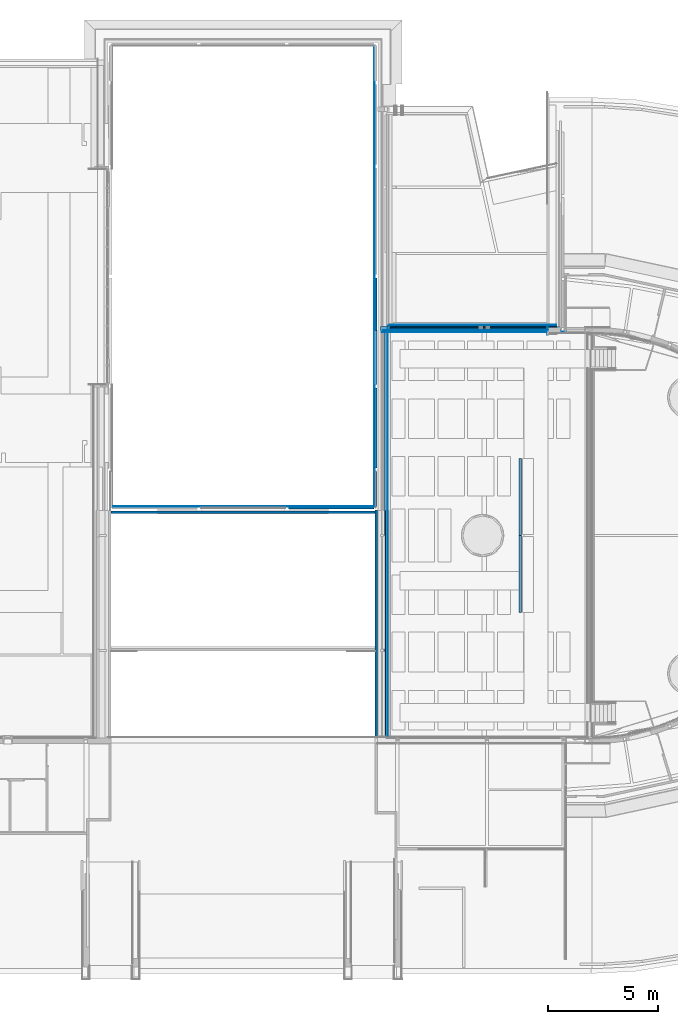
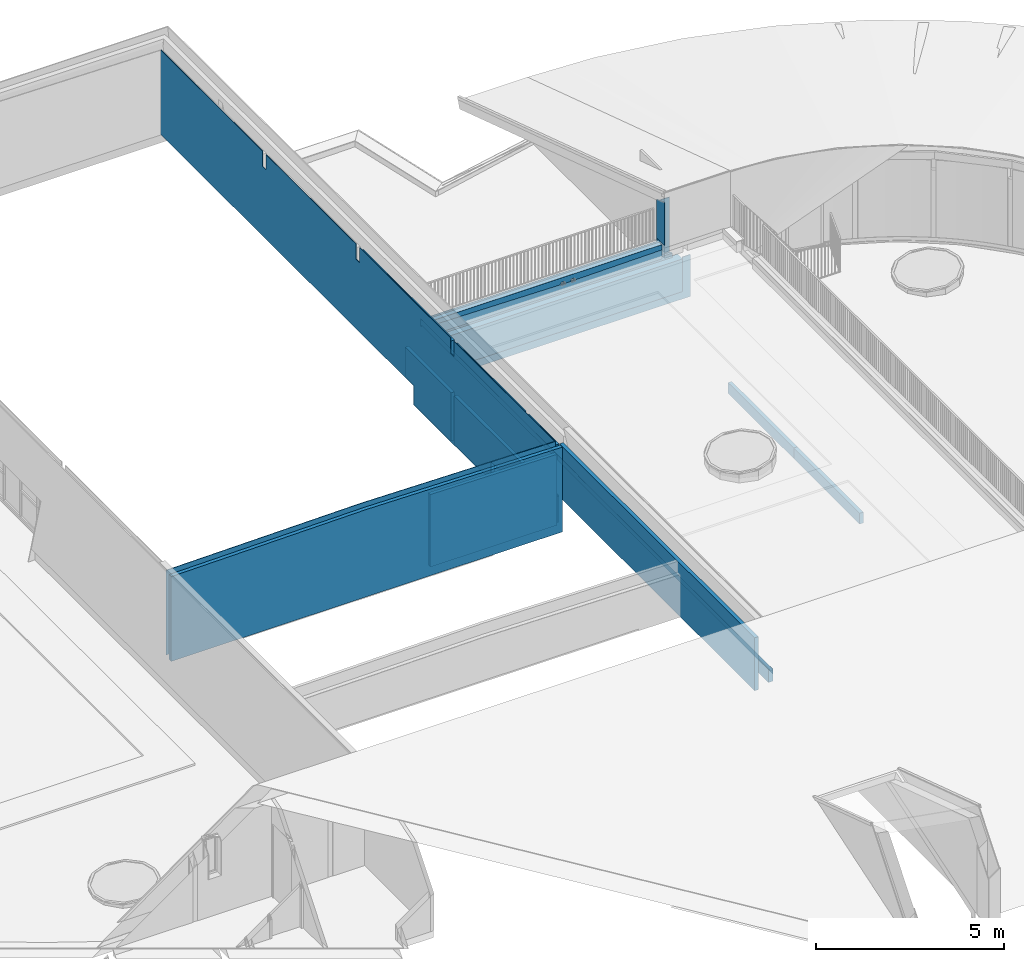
# One storey, part 30 of 66: 22 walls, 16 openings.
"""IFC2X3 building model written with IfcOpenShell, lengths in millimetres."""

from ifc_helpers import new_model, entity, si_unit, converted_unit, derived_unit, direction, frame, frame_2d, origin, origin_2d_with_axis, place, context, subcontext, project, spatial, polyline, rectangle, extrude, clip, halfspace, bounded_halfspace, material, layer, layer_set, layer_usage, type_object, element, save


model = new_model("IFC2X3")

# Units and contexts
model_context = context("Model", 3, precision=0.01, world=origin(), true_north=direction((6.12303176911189e-17, 1.0)))
body_context = subcontext(model_context, "Body", "Model", "MODEL_VIEW")
ifc_project = project(units=[si_unit("LENGTHUNIT", "METRE", prefix="MILLI"), si_unit("AREAUNIT", "SQUARE_METRE"), si_unit("VOLUMEUNIT", "CUBIC_METRE"), converted_unit("PLANEANGLEUNIT", "DEGREE", entity("IfcRatioMeasure", 0.0174532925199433), si_unit("PLANEANGLEUNIT", "RADIAN"), dimensions=[0, 0, 0, 0, 0, 0, 0]), si_unit("MASSUNIT", "GRAM", prefix="KILO"), derived_unit("MASSDENSITYUNIT", [(si_unit("MASSUNIT", "GRAM", prefix="KILO"), 1), (si_unit("LENGTHUNIT", "METRE"), -3)]), derived_unit("MOMENTOFINERTIAUNIT", [(si_unit("LENGTHUNIT", "METRE"), 4)]), si_unit("TIMEUNIT", "SECOND"), si_unit("FREQUENCYUNIT", "HERTZ"), si_unit("THERMODYNAMICTEMPERATUREUNIT", "DEGREE_CELSIUS"), derived_unit("THERMALTRANSMITTANCEUNIT", [(si_unit("MASSUNIT", "GRAM", prefix="KILO"), 1), (si_unit("THERMODYNAMICTEMPERATUREUNIT", "KELVIN"), -1), (si_unit("TIMEUNIT", "SECOND"), -3)]), derived_unit("VOLUMETRICFLOWRATEUNIT", [(si_unit("LENGTHUNIT", "METRE"), 3), (si_unit("TIMEUNIT", "SECOND"), -1)]), si_unit("ELECTRICCURRENTUNIT", "AMPERE"), si_unit("ELECTRICVOLTAGEUNIT", "VOLT"), si_unit("POWERUNIT", "WATT"), si_unit("FORCEUNIT", "NEWTON", prefix="KILO"), si_unit("ILLUMINANCEUNIT", "LUX"), si_unit("LUMINOUSFLUXUNIT", "LUMEN"), si_unit("LUMINOUSINTENSITYUNIT", "CANDELA"), derived_unit("USERDEFINED", [(si_unit("MASSUNIT", "GRAM", prefix="KILO"), -1), (si_unit("LENGTHUNIT", "METRE"), -2), (si_unit("TIMEUNIT", "SECOND"), 3), (si_unit("LUMINOUSFLUXUNIT", "LUMEN"), 1)]), derived_unit("LINEARVELOCITYUNIT", [(si_unit("LENGTHUNIT", "METRE"), 1), (si_unit("TIMEUNIT", "SECOND"), -1)]), si_unit("PRESSUREUNIT", "PASCAL"), derived_unit("USERDEFINED", [(si_unit("LENGTHUNIT", "METRE"), -2), (si_unit("MASSUNIT", "GRAM", prefix="KILO"), 1), (si_unit("TIMEUNIT", "SECOND"), -2)]), derived_unit("LINEARFORCEUNIT", [(si_unit("MASSUNIT", "GRAM", prefix="KILO"), 1), (si_unit("LENGTHUNIT", "METRE"), 1), (si_unit("TIMEUNIT", "SECOND"), -2), (si_unit("LENGTHUNIT", "METRE"), -1)]), derived_unit("PLANARFORCEUNIT", [(si_unit("MASSUNIT", "GRAM", prefix="KILO"), 1), (si_unit("LENGTHUNIT", "METRE"), 1), (si_unit("TIMEUNIT", "SECOND"), -2), (si_unit("LENGTHUNIT", "METRE"), -2)])], contexts=[model_context])

# Site, building, storey
site_placement = place(None, origin())
site = spatial("IfcSite", under=ifc_project, at=site_placement, Name="Default", CompositionType="ELEMENT")
building_placement = place(site_placement, origin())
building = spatial("IfcBuilding", under=site, at=building_placement, Name="-", CompositionType="ELEMENT")
storey_placement = place(building_placement, frame((0.0, 0.0, 3070.0)))
storey = spatial("IfcBuildingStorey", under=building, at=storey_placement, Name="01 eerste verdieping", CompositionType="ELEMENT", Elevation=3070.00000000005)

# Walls
ifc_material_1 = material(Name="NLRS_i4_hout_multiplex")
ifc_layer_1 = layer(ifc_material_1, 9.0)
ifc_material_2 = material(Name="NLRS_m1_isolatie")
ifc_layer_2 = layer(ifc_material_2, 89.0)
ifc_layer_3 = layer(ifc_material_1, 9.0)
ifc_layer_set_1 = layer_set([ifc_layer_1, ifc_layer_2, ifc_layer_3], Name="Basic Wall:NLRS_21_WA_HSB-wand_110mm")
ifc_layer_usage_1 = layer_usage(ifc_layer_set_1, "AXIS2", "POSITIVE", -53.5)
wall_type_1 = type_object("IfcWallType", Name="Basic Wall:NLRS_21_WA_HSB-wand_110mm", PredefinedType="STANDARD", material=ifc_layer_set_1)
wall_1_placement = place(storey_placement, frame((40821.2709756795, 22520.8202504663, 1200.0), z_axis=(0.0, 0.0, 1.0), x_axis=(0.0, -1.0, 0.0)))
element("IfcWallStandardCase", 1, at=wall_1_placement, inside=storey, type_object=wall_type_1, material=ifc_layer_usage_1, Name="Basic Wall:NLRS_21_WA_HSB-wand_110mm", ObjectType="Basic Wall:NLRS_21_WA_HSB-wand_110mm", context=body_context, shape_type="SweptSolid", body=[
    extrude(rectangle(XDim=1596.39665983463, YDim=106.999999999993, at=frame_2d((798.198329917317, 2.01794136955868e-12), x_axis=(-1.0, 0.0))), origin(), (0.0, 0.0, 1.0), 1682.52593752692),
])
ifc_layer_usage_2 = layer_usage(ifc_layer_set_1, "AXIS2", "POSITIVE", -53.5)
wall_2_placement = place(storey_placement, frame((40821.2709756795, 26326.8202504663, 1200.0), z_axis=(0.0, 0.0, 1.0), x_axis=(0.0, -1.0, 0.0)))
element("IfcWallStandardCase", 2, at=wall_2_placement, inside=storey, type_object=wall_type_1, material=ifc_layer_usage_2, Name="Basic Wall:NLRS_21_WA_HSB-wand_110mm", ObjectType="Basic Wall:NLRS_21_WA_HSB-wand_110mm", context=body_context, shape_type="SweptSolid", body=[
    extrude(rectangle(XDim=3646.0, YDim=106.999999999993, at=frame_2d((1823.0, 0.0), x_axis=(-1.0, 0.0))), origin(), (0.0, 0.0, 1.0), 1682.52593752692),
])

# Wall, opening
ifc_layer_usage_3 = layer_usage(ifc_layer_set_1, "AXIS2", "POSITIVE", -53.5)
wall_3_placement = place(storey_placement, frame((40822.0193132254, 31334.8202504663, 245.0), z_axis=(0.0, 0.0, 1.0), x_axis=(0.0, -1.0, 0.0)))
wall_3 = element("IfcWallStandardCase", 3, at=wall_3_placement, inside=storey, type_object=wall_type_1, material=ifc_layer_usage_3, Name="Basic Wall:NLRS_21_WA_HSB-wand_110mm", ObjectType="Basic Wall:NLRS_21_WA_HSB-wand_110mm", context=body_context, shape_type="SweptSolid", body=[
    extrude(rectangle(XDim=4848.00000000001, YDim=106.999999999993, at=frame_2d((2424.0, 0.0), x_axis=(-1.0, 0.0))), origin(), (0.0, 0.0, 1.0), 2637.52593752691),
])
opening_1_placement = place(wall_3_placement, origin())
element("IfcOpeningElement", 4, at=opening_1_placement, cuts=wall_3, Name="Basic Wall:NLRS_21_WA_HSB-wand_110mm", ObjectType="Opening", context=body_context, shape_type="SweptSolid", body=[
    extrude(rectangle(XDim=955.000000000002, YDim=2450.73616745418, at=frame_2d((2.1600499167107e-12, 2.8421709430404e-13), x_axis=(0.0, 1.0))), frame((3622.63191627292, 53.4999999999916, 477.500000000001), z_axis=(0.0, -1.0, 0.0), x_axis=(1.0, 0.0, 0.0)), (0.0, 0.0, 1.0), 107.0),
])

# Wall
ifc_layer_usage_4 = layer_usage(ifc_layer_set_1, "AXIS2", "POSITIVE", -53.5)
wall_4_placement = place(storey_placement, frame((40741.0, 20876.8202504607, 345.0), z_axis=(0.0, 0.0, 1.0), x_axis=(-1.0, 0.0, 0.0)))
element("IfcWallStandardCase", 5, at=wall_4_placement, inside=storey, type_object=wall_type_1, material=ifc_layer_usage_4, Name="Basic Wall:NLRS_21_WA_HSB-wand_110mm", ObjectType="Basic Wall:NLRS_21_WA_HSB-wand_110mm", context=body_context, shape_type="Clipping", body=[
    clip(extrude(rectangle(XDim=3884.0, YDim=107.000000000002, at=frame_2d((1942.0, -3.5527136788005e-15), x_axis=(-1.0, 0.0))), origin(), (0.0, 0.0, 1.0), 2355.19793529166), halfspace(frame((0.0, -53.5000000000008, 2299.19000326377), z_axis=(-0.0144186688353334, 0.0, 0.999896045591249), x_axis=(0.0, 1.0, 0.0)), False)),
])

# Wall, opening
ifc_layer_usage_5 = layer_usage(ifc_layer_set_1, "AXIS2", "POSITIVE", -53.5)
wall_5_placement = place(storey_placement, frame((40822.0193132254, 28937.5564179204, -370.0), z_axis=(0.0, 0.0, 1.0), x_axis=(0.0, -1.0, 0.0)))
wall_5 = element("IfcWallStandardCase", 6, at=wall_5_placement, inside=storey, type_object=wall_type_1, material=ifc_layer_usage_5, Name="Basic Wall:NLRS_21_WA_HSB-wand_110mm", ObjectType="Basic Wall:NLRS_21_WA_HSB-wand_110mm", context=body_context, shape_type="SweptSolid", body=[
    extrude(rectangle(XDim=2450.73616745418, YDim=106.999999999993, at=frame_2d((1225.36808372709, 0.0), x_axis=(-1.0, 0.0))), origin(), (0.0, 0.0, 1.0), 1570.00000000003),
])
opening_2_placement = place(wall_5_placement, origin())
element("IfcOpeningElement", 7, at=opening_2_placement, cuts=wall_5, Name="Basic Wall:NLRS_21_WA_HSB-wand_110mm", ObjectType="Opening", context=body_context, shape_type="SweptSolid", body=[
    extrude(rectangle(XDim=615.000000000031, YDim=476.736167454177, at=frame_2d((0.0, -2.1600499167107e-12), x_axis=(1.0, 0.0))), frame((238.368083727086, 53.5000000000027, 307.500000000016), z_axis=(0.0, -1.0, 0.0), x_axis=(0.0, 0.0, 1.0)), (0.0, 0.0, 1.0), 107.0),
])

ifc_layer_usage_6 = layer_usage(ifc_layer_set_1, "AXIS2", "POSITIVE", -53.5)
wall_6_placement = place(storey_placement, frame((40821.2709756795, 26326.8202504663, -370.0), z_axis=(0.0, 0.0, 1.0), x_axis=(0.0, -1.0, 0.0)))
wall_6 = element("IfcWallStandardCase", 8, at=wall_6_placement, inside=storey, type_object=wall_type_1, material=ifc_layer_usage_6, Name="Basic Wall:NLRS_21_WA_HSB-wand_110mm", ObjectType="Basic Wall:NLRS_21_WA_HSB-wand_110mm", context=body_context, shape_type="SweptSolid", body=[
    extrude(rectangle(XDim=3646.0, YDim=106.999999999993, at=frame_2d((1823.0, 2.22399876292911e-12), x_axis=(-1.0, 0.0))), origin(), (0.0, 0.0, 1.0), 1570.00000000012),
])
opening_3_placement = place(wall_6_placement, origin())
element("IfcOpeningElement", 9, at=opening_3_placement, cuts=wall_6, Name="Basic Wall:NLRS_21_WA_HSB-wand_110mm", ObjectType="Opening", context=body_context, shape_type="SweptSolid", body=[
    extrude(rectangle(XDim=615.000000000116, YDim=1671.99999999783, at=frame_2d((2.1600499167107e-12, 2.8421709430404e-13), x_axis=(0.0, 1.0))), frame((2810.0, 53.5000000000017, 307.500000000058), z_axis=(0.0, -1.0, 0.0), x_axis=(1.0, 0.0, 0.0)), (0.0, 0.0, 1.0), 107.0),
])

# Walls
ifc_layer_usage_7 = layer_usage(ifc_layer_set_1, "AXIS2", "POSITIVE", -53.5)
wall_7_placement = place(storey_placement, frame((40821.2709756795, 22520.8202504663, 345.0), z_axis=(0.0, 0.0, 1.0), x_axis=(0.0, -1.0, 0.0)))
element("IfcWallStandardCase", 10, at=wall_7_placement, inside=storey, type_object=wall_type_1, material=ifc_layer_usage_7, Name="Basic Wall:NLRS_21_WA_HSB-wand_110mm", ObjectType="Basic Wall:NLRS_21_WA_HSB-wand_110mm", context=body_context, shape_type="SweptSolid", body=[
    extrude(rectangle(XDim=1596.39665983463, YDim=106.999999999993, at=frame_2d((798.198329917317, 1.51345602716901e-12), x_axis=(-1.0, 0.0))), origin(), (0.0, 0.0, 1.0), 854.999999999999),
])
ifc_material_3 = material(Name="NLRS_f7_gipsplaat_gen")
ifc_layer_4 = layer(ifc_material_3, 12.5)
ifc_layer_5 = layer(ifc_material_2, 89.0)
ifc_layer_6 = layer(ifc_material_3, 12.5)
ifc_layer_set_2 = layer_set([ifc_layer_4, ifc_layer_5, ifc_layer_6], Name="Basic Wall:NLRS_21_WA_HSB-wand_114mm")
ifc_layer_usage_8 = layer_usage(ifc_layer_set_2, "AXIS2", "NEGATIVE", 57.0)
wall_type_2 = type_object("IfcWallType", Name="Basic Wall:NLRS_21_WA_HSB-wand_114mm", PredefinedType="STANDARD", material=ifc_layer_set_2)
wall_8_placement = place(storey_placement, frame((40850.0668104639, 20773.3202504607, 1282.0), z_axis=(0.0, 0.0, 1.0), x_axis=(0.0, -1.0, 0.0)))
element("IfcWallStandardCase", 11, at=wall_8_placement, inside=storey, type_object=wall_type_2, material=ifc_layer_usage_8, Name="Basic Wall:NLRS_21_WA_HSB-wand_114mm", ObjectType="Basic Wall:NLRS_21_WA_HSB-wand_114mm", context=body_context, shape_type="SweptSolid", body=[
    extrude(rectangle(XDim=10385.1990281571, YDim=113.999999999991, at=frame_2d((5192.59951407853, 2.02859951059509e-12), x_axis=(-1.0, 0.0))), origin(), (0.0, 0.0, 1.0), 1722.16925207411),
])
ifc_layer_usage_9 = layer_usage(ifc_layer_set_2, "AXIS2", "NEGATIVE", 57.0)
wall_9_placement = place(storey_placement, frame((40793.0668104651, 20663.3202504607, 245.0), z_axis=(0.0, 0.0, 1.0), x_axis=(-1.0, 0.0, 0.0)))
element("IfcWallStandardCase", 12, at=wall_9_placement, inside=storey, type_object=wall_type_2, material=ifc_layer_usage_9, Name="Basic Wall:NLRS_21_WA_HSB-wand_114mm", ObjectType="Basic Wall:NLRS_21_WA_HSB-wand_114mm", context=body_context, shape_type="Clipping", body=[
    clip(clip(extrude(rectangle(XDim=12012.371976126, YDim=114.0, at=frame_2d((6006.18598806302, 9.69890834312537e-13), x_axis=(-1.0, 0.0))), origin(), (0.0, 0.0, 1.0), 2834.99922800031), halfspace(frame((6001.07091661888, -57.0, 2834.99922800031), z_axis=(0.0138697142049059, 0.0, 0.999903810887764), x_axis=(0.0, 1.0, 0.0)), False)), halfspace(frame((0.0, -57.0, 2751.5992280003), z_axis=(-0.013896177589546, 0.0, 0.999903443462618), x_axis=(0.0, 1.0, 0.0)), False)),
])
ifc_layer_usage_10 = layer_usage(ifc_layer_set_2, "AXIS2", "NEGATIVE", 57.0)
wall_10_placement = place(storey_placement, frame((47380.620390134, 19616.0597289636, 930.0), z_axis=(0.0, 0.0, 1.0), x_axis=(0.0, 1.0, 0.0)))
element("IfcWallStandardCase", 13, at=wall_10_placement, inside=storey, type_object=wall_type_2, material=ifc_layer_usage_10, Name="Basic Wall:NLRS_21_WA_HSB-wand_114mm", ObjectType="Basic Wall:NLRS_21_WA_HSB-wand_114mm", context=body_context, shape_type="SweptSolid", body=[
    extrude(rectangle(XDim=3499.99999999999, YDim=113.999999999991, at=frame_2d((1750.0, 0.0), x_axis=(-1.0, 0.0))), origin(), (0.0, 0.0, 1.0), 351.999999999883),
])
ifc_layer_usage_11 = layer_usage(ifc_layer_set_2, "AXIS2", "NEGATIVE", 57.0)
wall_11_placement = place(storey_placement, frame((47380.620390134, 16116.0597289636, 930.0), z_axis=(0.0, 0.0, 1.0), x_axis=(0.0, 1.0, 0.0)))
element("IfcWallStandardCase", 14, at=wall_11_placement, inside=storey, type_object=wall_type_2, material=ifc_layer_usage_11, Name="Basic Wall:NLRS_21_WA_HSB-wand_114mm", ObjectType="Basic Wall:NLRS_21_WA_HSB-wand_114mm", context=body_context, shape_type="SweptSolid", body=[
    extrude(rectangle(XDim=3500.0, YDim=113.999999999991, at=frame_2d((1750.0, 0.0), x_axis=(-1.0, 0.0))), origin(), (0.0, 0.0, 1.0), 351.999999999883),
])

# Wall, openings
ifc_material_4 = material(Name="AL Houten gevelbekleding staand")
ifc_layer_7 = layer(ifc_material_4, 20.0)
ifc_layer_set_3 = layer_set([ifc_layer_7], Name="Basic Wall:NLRS_42_WA_Houten gevelbekleding staand 20mm")
ifc_layer_usage_12 = layer_usage(ifc_layer_set_3, "AXIS2", "NEGATIVE", 10.0)
wall_type_3 = type_object("IfcWallType", Name="Basic Wall:NLRS_42_WA_Houten gevelbekleding staand 20mm", PredefinedType="STANDARD", material=ifc_layer_set_3)
wall_12_placement = place(storey_placement, frame((41465.1516479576, 29178.7067824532, 557.0)))
wall_12 = element("IfcWallStandardCase", 15, at=wall_12_placement, inside=storey, type_object=wall_type_3, material=ifc_layer_usage_12, Name="Basic Wall:NLRS_42_WA_Houten gevelbekleding staand 20mm", ObjectType="Basic Wall:NLRS_42_WA_Houten gevelbekleding staand 20mm", context=body_context, shape_type="SweptSolid", body=[
    extrude(rectangle(XDim=7559.46874217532, YDim=20.0000000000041, at=frame_2d((3779.73437108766, 0.0), x_axis=(-1.0, 0.0))), origin(), (0.0, 0.0, 1.0), 2483.19642990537),
])
opening_4_placement = place(wall_12_placement, origin())
element("IfcOpeningElement", 16, at=opening_4_placement, cuts=wall_12, Name="Basic Wall:NLRS_42_WA_Houten gevelbekleding staand 20mm", ObjectType="Opening", context=body_context, shape_type="SweptSolid", body=[
    extrude(rectangle(XDim=59.9999999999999, YDim=99.9999999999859, at=frame_2d((-4.33075797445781e-12, -2.71782596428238e-13), x_axis=(0.0, 1.0))), frame((4144.27890948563, -478.0, 1021.83906392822), z_axis=(0.0, 1.0, 0.0), x_axis=(1.0, 0.0, 0.0)), (0.0, 0.0, 1.0), 801.604736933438),
    extrude(rectangle(XDim=59.9999999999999, YDim=99.9999999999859, at=frame_2d((-4.33075797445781e-12, -2.71782596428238e-13), x_axis=(0.0, 1.0))), frame((4454.27890948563, -478.0, 1021.83906392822), z_axis=(0.0, 1.0, 0.0), x_axis=(1.0, 0.0, 0.0)), (0.0, 0.0, 1.0), 801.604736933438),
])
opening_5_placement = place(wall_12_placement, origin())
element("IfcOpeningElement", 17, at=opening_5_placement, cuts=wall_12, Name="Basic Wall:NLRS_42_WA_Houten gevelbekleding staand 20mm", ObjectType="Opening", context=body_context, shape_type="SweptSolid", body=[
    extrude(rectangle(XDim=1305.67030289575, YDim=7170.41101405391, at=frame_2d((-4.32009983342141e-12, -5.6843418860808e-13), x_axis=(0.0, 1.0))), frame((3585.20550702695, 10.0, 1830.3612784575), z_axis=(0.0, -1.0, 0.0), x_axis=(-1.0, 0.0, 0.0)), (0.0, 0.0, 1.0), 20.0),
])

# Walls
ifc_layer_usage_13 = layer_usage(ifc_layer_set_3, "AXIS2", "NEGATIVE", 10.0)
wall_13_placement = place(storey_placement, frame((48635.5626620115, 28755.4953625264, 1850.0), z_axis=(0.0, 0.0, 1.0), x_axis=(0.0, 1.0, 0.0)))
element("IfcWallStandardCase", 18, at=wall_13_placement, inside=storey, type_object=wall_type_3, material=ifc_layer_usage_13, Name="Basic Wall:NLRS_42_WA_Houten gevelbekleding staand 20mm", ObjectType="Basic Wall:NLRS_42_WA_Houten gevelbekleding staand 20mm", context=body_context, shape_type="Clipping", body=[
    clip(extrude(rectangle(XDim=409.211419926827, YDim=19.9999999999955, at=frame_2d((204.605709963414, 0.0), x_axis=(-1.0, 0.0))), origin(), (0.0, 0.0, 1.0), 1395.8171037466), halfspace(frame((0.0, -10.0, 1395.8171037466), z_axis=(0.309016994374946, 0.0, 0.951056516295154), x_axis=(0.0, 1.0, 0.0)), False)),
])
ifc_layer_8 = layer(ifc_material_1, 10.0)
ifc_layer_9 = layer(ifc_material_2, 235.0)
ifc_layer_10 = layer(ifc_material_1, 10.0)
ifc_layer_11 = layer(ifc_material_3, 12.5)
ifc_layer_set_4 = layer_set([ifc_layer_8, ifc_layer_9, ifc_layer_10, ifc_layer_11], Name="Basic Wall:NLRS_21_WA_HSB-wand_268mm")
ifc_layer_usage_14 = layer_usage(ifc_layer_set_4, "AXIS2", "NEGATIVE", 133.75)
wall_type_4 = type_object("IfcWallType", Name="Basic Wall:NLRS_21_WA_HSB-wand_268mm", PredefinedType="STANDARD", material=ifc_layer_set_4)
wall_14_placement = place(storey_placement, frame((41043.0668104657, 28990.9567824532, 82.0)))
element("IfcWallStandardCase", 19, at=wall_14_placement, inside=storey, type_object=wall_type_4, material=ifc_layer_usage_14, Name="Basic Wall:NLRS_21_WA_HSB-wand_268mm", ObjectType="Basic Wall:NLRS_21_WA_HSB-wand_268mm", context=body_context, shape_type="SweptSolid", body=[
    extrude(rectangle(XDim=8198.55357966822, YDim=267.5, at=frame_2d((4099.27678983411, 1.4210854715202e-14), x_axis=(-1.0, 0.0))), origin(), (0.0, 0.0, 1.0), 1060.0),
])

# Wall, opening
ifc_material_5 = material(Name="NLRS_i4_hout_underlayment")
ifc_layer_12 = layer(ifc_material_5, 9.0)
ifc_layer_13 = layer(ifc_material_2, 140.0)
ifc_layer_set_5 = layer_set([ifc_layer_12, ifc_layer_13], Name="Basic Wall:NLRS_21_WA_HSB-wand_149 (conform opgaaf constructeur)")
ifc_layer_usage_15 = layer_usage(ifc_layer_set_5, "AXIS2", "POSITIVE", -74.5)
wall_type_5 = type_object("IfcWallType", Name="Basic Wall:NLRS_21_WA_HSB-wand_149 (conform opgaaf constructeur)", PredefinedType="STANDARD", material=ifc_layer_set_5)
wall_15_placement = place(storey_placement, frame((41475.1573078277, 29031.2067824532, 1282.0)))
wall_15 = element("IfcWallStandardCase", 20, at=wall_15_placement, inside=storey, type_object=wall_type_5, material=ifc_layer_usage_15, Name="Basic Wall:NLRS_21_WA_HSB-wand_149 (conform opgaaf constructeur)", ObjectType="Basic Wall:NLRS_21_WA_HSB-wand_149 (conform opgaaf constructeur)", context=body_context, shape_type="Clipping", body=[
    clip(extrude(rectangle(XDim=7191.40535418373, YDim=149.000000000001, at=frame_2d((3595.70267709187, 2.70006239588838e-13), x_axis=(-1.0, 0.0))), origin(), (0.0, 0.0, 1.0), 453.208333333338), bounded_halfspace(frame((0.0, -74.5000000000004, 447.0), z_axis=(0.0, -0.0416305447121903, 0.999133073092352), x_axis=(-1.0, 0.0, 0.0)), False, frame((0.0, -74.5000000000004, 447.0), z_axis=(0.0, -0.0416305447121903, 0.999133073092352), x_axis=(-1.0, 0.0, 0.0)), polyline([(0.0, 0.0), (-7191.40535418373, 0.0), (-7191.40535418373, -149.129284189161), (0.0, -149.129284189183), (0.0, 0.0)]))),
])
opening_6_placement = place(wall_15_placement, origin())
element("IfcOpeningElement", 21, at=opening_6_placement, cuts=wall_15, Name="Basic Wall:NLRS_21_WA_HSB-wand_149 (conform opgaaf constructeur)", ObjectType="Opening", context=body_context, shape_type="SweptSolid", body=[
    extrude(rectangle(XDim=59.9999999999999, YDim=99.9999999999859, at=frame_2d((-4.33075797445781e-12, -2.71782596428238e-13), x_axis=(0.0, 1.0))), frame((4134.27324961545, -330.499999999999, 296.839063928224), z_axis=(0.0, 1.0, 0.0), x_axis=(1.0, 0.0, 0.0)), (0.0, 0.0, 1.0), 801.604736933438),
    extrude(rectangle(XDim=59.9999999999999, YDim=99.9999999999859, at=frame_2d((-4.33075797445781e-12, -2.71782596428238e-13), x_axis=(0.0, 1.0))), frame((4444.27324961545, -330.500000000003, 296.839063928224), z_axis=(0.0, 1.0, 0.0), x_axis=(1.0, 0.0, 0.0)), (0.0, 0.0, 1.0), 801.604736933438),
])

# Wall
ifc_material_6 = material(Name="NLRS_n7_isolatie PIR_gen")
ifc_layer_14 = layer(ifc_material_6, 70.0)
ifc_layer_set_6 = layer_set([ifc_layer_14], Name="Basic Wall:NLRS_22_WA_LB_isolatie PIR 70mm")
ifc_layer_usage_16 = layer_usage(ifc_layer_set_6, "AXIS2", "NEGATIVE", 35.0)
wall_type_6 = type_object("IfcWallType", Name="Basic Wall:NLRS_22_WA_LB_isolatie PIR 70mm", PredefinedType="STANDARD", material=ifc_layer_set_6)
wall_16_placement = place(storey_placement, frame((41475.1573078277, 29089.7067824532, 1142.0)))
element("IfcWallStandardCase", 22, at=wall_16_placement, inside=storey, type_object=wall_type_6, material=ifc_layer_usage_16, Name="Basic Wall:NLRS_22_WA_LB_isolatie PIR 70mm", ObjectType="Basic Wall:NLRS_22_WA_LB_isolatie PIR 70mm", context=body_context, shape_type="SweptSolid", body=[
    extrude(rectangle(XDim=7571.46308230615, YDim=70.0000000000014, at=frame_2d((3785.73154115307, 9.66338120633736e-13), x_axis=(-1.0, 0.0))), origin(), (0.0, 0.0, 1.0), 140.000000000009),
])

# Wall, opening
ifc_material_7 = material(Name="n2_bitumen_dak bedekking")
ifc_layer_15 = layer(ifc_material_7, 6.0)
ifc_layer_set_7 = layer_set([ifc_layer_15], Name="Basic Wall:47.11_2 laagse APP dakbedekking")
ifc_layer_usage_17 = layer_usage(ifc_layer_set_7, "AXIS2", "NEGATIVE", 3.0)
wall_type_7 = type_object("IfcWallType", Name="Basic Wall:47.11_2 laagse APP dakbedekking", PredefinedType="STANDARD", material=ifc_layer_set_7)
wall_17_placement = place(storey_placement, frame((48666.5626620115, 28953.7067824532, 1535.77258945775), z_axis=(0.0, 0.0, 1.0), x_axis=(-1.0, 0.0, 0.0)))
wall_17 = element("IfcWallStandardCase", 23, at=wall_17_placement, inside=storey, type_object=wall_type_7, material=ifc_layer_usage_17, Name="Basic Wall:47.11_2 laagse APP dakbedekking", ObjectType="Basic Wall:47.11_2 laagse APP dakbedekking", context=body_context, shape_type="Clipping", body=[
    clip(clip(clip(extrude(rectangle(XDim=7497.05986536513, YDim=5.99999999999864, at=frame_2d((3748.52993268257, -1.77635683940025e-14), x_axis=(-1.0, 0.0))), origin(), (0.0, 0.0, 1.0), 214.154151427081), halfspace(frame((7497.05986536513, -3.0, 214.154151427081), z_axis=(0.979607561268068, 0.0, -0.200920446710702), x_axis=(0.0, 1.0, 0.0)), False)), halfspace(frame((2802.13210457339, -3.0, 0.0), z_axis=(-0.0159979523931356, 0.0, -0.999872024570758), x_axis=(0.0, 1.0, 0.0)), False)), halfspace(frame((7467.79092721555, -3.0, 71.4505411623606), z_axis=(0.0159979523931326, 0.0, -0.999872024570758), x_axis=(0.0, 1.0, 0.0)), False)),
])
opening_7_placement = place(wall_17_placement, origin())
element("IfcOpeningElement", 24, at=opening_7_placement, cuts=wall_17, Name="Basic Wall:47.11_2 laagse APP dakbedekking", ObjectType="Opening", context=body_context, shape_type="SweptSolid", body=[
    extrude(rectangle(XDim=59.9999999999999, YDim=99.9999999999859, at=frame_2d((2.71782596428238e-13, 4.33075797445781e-12), x_axis=(1.0, 0.0))), frame((3057.13210456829, -548.604736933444, 43.066474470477), z_axis=(0.0, 1.0, 0.0), x_axis=(0.0, 0.0, -1.0)), (0.0, 0.0, 1.0), 801.604736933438),
    extrude(rectangle(XDim=59.9999999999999, YDim=99.9999999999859, at=frame_2d((2.71782596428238e-13, 4.33075797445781e-12), x_axis=(1.0, 0.0))), frame((2747.13210456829, -548.604736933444, 43.066474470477), z_axis=(0.0, 1.0, 0.0), x_axis=(0.0, 0.0, -1.0)), (0.0, 0.0, 1.0), 801.604736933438),
])

ifc_layer_usage_18 = layer_usage(ifc_layer_set_7, "AXIS2", "NEGATIVE", 3.0)
wall_18_placement = place(storey_placement, frame((41370.6645167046, 10408.1240954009, 1536.0), z_axis=(0.0, 0.0, 1.0), x_axis=(0.0, 1.0, 0.0)))
wall_18 = element("IfcWallStandardCase", 25, at=wall_18_placement, inside=storey, type_object=wall_type_7, material=ifc_layer_usage_18, Name="Basic Wall:47.11_2 laagse APP dakbedekking", ObjectType="Basic Wall:47.11_2 laagse APP dakbedekking", context=body_context, shape_type="Clipping", body=[
    clip(clip(extrude(rectangle(XDim=18738.5826870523, YDim=5.99999999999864, at=frame_2d((9369.29134352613, -2.298383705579e-12), x_axis=(-1.0, 0.0))), origin(), (0.0, 0.0, 1.0), 249.366423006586), bounded_halfspace(frame((10353.1961550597, 3.0, 231.007785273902), z_axis=(1.0, 0.0, 0.0), x_axis=(0.0, -0.20107792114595, -0.979575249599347)), True, frame((10353.1961550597, 3.0, 231.007785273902), z_axis=(1.0, 0.0, 0.0), x_axis=(0.0, -0.20107792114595, -0.979575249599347)), polyline([(0.0, 0.0), (-17.9836671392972, -3.69151671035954), (-16.7771996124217, -9.56896820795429), (0.0, -6.12510371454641), (0.0, 0.0)]))), bounded_halfspace(frame((10353.1961550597, -3.0, 232.239408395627), z_axis=(0.0, 0.201077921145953, 0.979575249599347), x_axis=(-1.0, 0.0, 0.0)), False, frame((10353.1961550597, -3.0, 232.239408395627), z_axis=(0.0, 0.201077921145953, 0.979575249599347), x_axis=(-1.0, 0.0, 0.0)), polyline([(0.0, 0.0), (0.0, -6.12510371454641), (10353.1961550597, -6.12510371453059), (10353.1961550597, 0.0), (0.0, 0.0)]))),
])
opening_8_placement = place(wall_18_placement, origin())
element("IfcOpeningElement", 26, at=opening_8_placement, cuts=wall_18, Name="Basic Wall:47.11_2 laagse APP dakbedekking", ObjectType="Opening", context=body_context, shape_type="SweptSolid", body=[
    extrude(rectangle(XDim=63.5898652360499, YDim=18697.5826870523, at=frame_2d((0.0, -1.81898940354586e-12), x_axis=(1.0, 0.0))), frame((9348.79134352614, 3.0, 31.7949326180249), z_axis=(0.0, -1.0, 0.0), x_axis=(0.0, 0.0, 1.0)), (0.0, 0.0, 1.0), 6.00000000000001),
])

# Wall, openings
ifc_layer_16 = layer(ifc_material_3, 12.5)
ifc_layer_17 = layer(ifc_material_1, 10.0)
ifc_layer_set_8 = layer_set([ifc_layer_16, ifc_layer_17], Name="Basic Wall:NLRS_41_WA_Bekleding kolommen")
ifc_layer_usage_19 = layer_usage(ifc_layer_set_8, "AXIS2", "POSITIVE", -11.25)
wall_type_8 = type_object("IfcWallType", Name="Basic Wall:NLRS_41_WA_Bekleding kolommen", PredefinedType="STANDARD", material=ifc_layer_set_8)
wall_19_placement = place(storey_placement, frame((41093.0668104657, 28868.4567824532, -370.0)))
wall_19 = element("IfcWallStandardCase", 27, at=wall_19_placement, inside=storey, type_object=wall_type_8, material=ifc_layer_usage_19, Name="Basic Wall:NLRS_41_WA_Bekleding kolommen", ObjectType="Basic Wall:NLRS_41_WA_Bekleding kolommen", context=body_context, shape_type="SweptSolid", body=[
    extrude(rectangle(XDim=8388.55357966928, YDim=22.5000000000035, at=frame_2d((4194.27678983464, 0.0), x_axis=(-1.0, 0.0))), origin(), (0.0, 0.0, 1.0), 1572.00000000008),
])
opening_9_placement = place(wall_19_placement, origin())
element("IfcOpeningElement", 28, at=opening_9_placement, cuts=wall_19, Name="Basic Wall:NLRS_41_WA_Bekleding kolommen", ObjectType="Opening", context=body_context, shape_type="SweptSolid", body=[
    extrude(rectangle(XDim=212.000000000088, YDim=6706.55357966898, at=frame_2d((0.0, -3.24718030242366e-12), x_axis=(0.0, 1.0))), frame((5035.27678983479, 11.2499999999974, 106.0), z_axis=(0.0, -1.0, 0.0), x_axis=(-1.0, 0.0, 0.0)), (0.0, 0.0, 1.0), 22.5),
])
opening_10_placement = place(wall_19_placement, origin())
element("IfcOpeningElement", 29, at=opening_10_placement, cuts=wall_19, Name="Basic Wall:NLRS_41_WA_Bekleding kolommen", ObjectType="Opening", context=body_context, shape_type="SweptSolid", body=[
    extrude(rectangle(XDim=166.000000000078, YDim=288.411482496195, at=frame_2d((-2.70006239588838e-13, 0.0), x_axis=(1.0, 0.0))), frame((144.205741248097, 11.2499999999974, 83.0), z_axis=(0.0, 1.0, 0.0), x_axis=(0.0, 0.0, 1.0)), (0.0, 0.0, -1.0), 22.5),
])
opening_11_placement = place(wall_19_placement, origin())
element("IfcOpeningElement", 30, at=opening_11_placement, cuts=wall_19, Name="Basic Wall:NLRS_41_WA_Bekleding kolommen", ObjectType="Opening", context=body_context, shape_type="SweptSolid", body=[
    extrude(rectangle(XDim=1120.00000000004, YDim=8148.55357966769, at=frame_2d((0.0, -9.2086338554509e-12), x_axis=(0.0, 1.0))), frame((4074.27678983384, 11.2499999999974, 1012.0), z_axis=(0.0, -1.0, 0.0), x_axis=(1.0, 0.0, 0.0)), (0.0, 0.0, 1.0), 22.5),
])

# Walls
ifc_layer_18 = layer(ifc_material_6, 140.0)
ifc_material_8 = material(Name="NLRS_e_natuursteen")
ifc_layer_19 = layer(ifc_material_8, 10.0)
ifc_layer_set_9 = layer_set([ifc_layer_18, ifc_layer_19], Name="Basic Wall:NLRS_41_geïsoleerde kantplank")
ifc_layer_usage_20 = layer_usage(ifc_layer_set_9, "AXIS2", "NEGATIVE", 75.0)
wall_type_9 = type_object("IfcWallType", Name="Basic Wall:NLRS_41_geïsoleerde kantplank", PredefinedType="STANDARD", material=ifc_layer_set_9)
wall_20_placement = place(storey_placement, frame((41292.6645167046, 10402.124095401, 1390.0), z_axis=(0.0, 0.0, 1.0), x_axis=(0.0, 1.0, 0.0)))
element("IfcWallStandardCase", 31, at=wall_20_placement, inside=storey, type_object=wall_type_9, material=ifc_layer_usage_20, Name="Basic Wall:NLRS_41_geïsoleerde kantplank", ObjectType="Basic Wall:NLRS_41_geïsoleerde kantplank", context=body_context, shape_type="Clipping", body=[
    clip(clip(clip(extrude(rectangle(XDim=18535.4323225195, YDim=150.000000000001, at=frame_2d((9267.71616125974, 0.0), x_axis=(-1.0, 0.0))), origin(), (0.0, 0.0, 1.0), 429.575794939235), bounded_halfspace(frame((18535.4323225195, 75.0, 346.217207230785), z_axis=(0.0, 0.201077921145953, 0.979575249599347), x_axis=(-1.0, 0.0, 0.0)), False, frame((18535.4323225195, 75.0, 346.217207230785), z_axis=(0.0, 0.201077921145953, 0.979575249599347), x_axis=(-1.0, 0.0, 0.0)), polyline([(0.0, 0.0), (8176.23616745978, 0.0), (8176.23616745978, 49.6033881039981), (18535.4323225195, 49.6033881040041), (18535.4323225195, 153.127592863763), (8176.23616745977, 153.127592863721), (8176.23616745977, 134.979072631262), (0.0, 134.979072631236), (0.0, 0.0)]))), bounded_halfspace(frame((10359.1961550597, -57.2221587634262, 373.358518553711), z_axis=(1.0, 0.0, 0.0), x_axis=(0.0, -0.20107792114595, -0.979575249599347)), True, frame((10359.1961550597, -57.2221587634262, 373.358518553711), z_axis=(1.0, 0.0, 0.0), x_axis=(0.0, -0.20107792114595, -0.979575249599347)), polyline([(0.0, 0.0), (-57.3894414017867, 0.0), (-51.4943211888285, -28.7187863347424), (0.0, -18.1485202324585), (0.0, 0.0)]))), bounded_halfspace(frame((0.0, 26.4097487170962, 356.191353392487), z_axis=(0.0, 0.979575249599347, -0.20107792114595), x_axis=(1.0, 0.0, 0.0)), True, frame((0.0, 26.4097487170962, 356.191353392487), z_axis=(0.0, 0.979575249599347, -0.20107792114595), x_axis=(1.0, 0.0, 0.0)), polyline([(0.0, 0.0), (0.0, -74.9145525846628), (10359.1961550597, -74.9145525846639), (10359.1961550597, 0.0), (0.0, 0.0)]))),
])
ifc_material_9 = material(Name="NLRS_f7_fermacel plaat")
ifc_layer_20 = layer(ifc_material_9, 18.0)
ifc_layer_set_10 = layer_set([ifc_layer_20], Name="Basic Wall:NLRS_41_WA_Geperforeerde plaat")
ifc_layer_usage_21 = layer_usage(ifc_layer_set_10, "AXIS2", "NEGATIVE", 9.0)
wall_type_10 = type_object("IfcWallType", Name="Basic Wall:NLRS_41_WA_Geperforeerde plaat", PredefinedType="STANDARD", material=ifc_layer_set_10)
wall_21_placement = place(storey_placement, frame((28815.0, 20939.3202504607, 245.0)))
element("IfcWallStandardCase", 32, at=wall_21_placement, inside=storey, type_object=wall_type_10, material=ifc_layer_usage_21, Name="Basic Wall:NLRS_41_WA_Geperforeerde plaat", ObjectType="Basic Wall:NLRS_41_WA_Geperforeerde plaat", context=body_context, shape_type="Clipping", body=[
    clip(clip(extrude(rectangle(XDim=11952.7709756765, YDim=17.9999999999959, at=frame_2d((5976.38548783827, 7.23865412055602e-13), x_axis=(-1.0, 0.0))), origin(), (0.0, 0.0, 1.0), 2830.29877390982), halfspace(frame((0.0, -9.0, 2747.39236749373), z_axis=(-0.0138928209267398, 0.0, 0.999903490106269), x_axis=(0.0, 1.0, 0.0)), False)), halfspace(frame((5966.99587252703, -9.0, 2830.29877390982), z_axis=(0.0138961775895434, 0.0, 0.999903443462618), x_axis=(0.0, 1.0, 0.0)), False)),
])

# Wall, openings
ifc_layer_usage_22 = layer_usage(ifc_layer_set_10, "AXIS2", "NEGATIVE", 9.0)
wall_22_placement = place(storey_placement, frame((40755.5496137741, 20948.3202504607, -370.0), z_axis=(0.0, 0.0, 1.0), x_axis=(0.0, 1.0, 0.0)))
wall_22 = element("IfcWallStandardCase", 33, at=wall_22_placement, inside=storey, type_object=wall_type_10, material=ifc_layer_usage_22, Name="Basic Wall:NLRS_41_WA_Geperforeerde plaat", ObjectType="Basic Wall:NLRS_41_WA_Geperforeerde plaat", context=body_context, shape_type="SweptSolid", body=[
    extrude(rectangle(XDim=20949.5000000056, YDim=17.9999999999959, at=frame_2d((10474.7500000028, 4.20108392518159e-13), x_axis=(-1.0, 0.0))), origin(), (0.0, 0.0, 1.0), 3364.52593752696),
])
opening_12_placement = place(wall_22_placement, origin())
element("IfcOpeningElement", 34, at=opening_12_placement, cuts=wall_22, Name="Basic Wall:NLRS_41_WA_Geperforeerde plaat", ObjectType="Opening", context=body_context, shape_type="SweptSolid", body=[
    extrude(rectangle(XDim=495.365239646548, YDim=179.999999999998, at=frame_2d((0.0, -2.16715534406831e-12), x_axis=(1.0, 0.0))), frame((5450.50000000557, 9.0, 3116.84331770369), z_axis=(0.0, -1.0, 0.0), x_axis=(0.0, 0.0, -1.0)), (0.0, 0.0, 1.0), 18.0),
])
opening_13_placement = place(wall_22_placement, origin())
element("IfcOpeningElement", 35, at=opening_13_placement, cuts=wall_22, Name="Basic Wall:NLRS_41_WA_Geperforeerde plaat", ObjectType="Opening", context=body_context, shape_type="SweptSolid", body=[
    extrude(rectangle(XDim=495.365239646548, YDim=179.999999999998, at=frame_2d((0.0, -2.16715534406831e-12), x_axis=(1.0, 0.0))), frame((10466.5000000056, 9.0, 3116.84331770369), z_axis=(0.0, -1.0, 0.0), x_axis=(0.0, 0.0, -1.0)), (0.0, 0.0, 1.0), 18.0),
])
opening_14_placement = place(wall_22_placement, origin())
element("IfcOpeningElement", 36, at=opening_14_placement, cuts=wall_22, Name="Basic Wall:NLRS_41_WA_Geperforeerde plaat", ObjectType="Opening", context=body_context, shape_type="SweptSolid", body=[
    extrude(rectangle(XDim=495.365239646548, YDim=179.999999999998, at=frame_2d((0.0, -2.16715534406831e-12), x_axis=(1.0, 0.0))), frame((15438.5000000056, 9.0, 3116.84331770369), z_axis=(0.0, -1.0, 0.0), x_axis=(0.0, 0.0, -1.0)), (0.0, 0.0, 1.0), 18.0),
])
opening_15_placement = place(wall_22_placement, origin())
element("IfcOpeningElement", 37, at=opening_15_placement, cuts=wall_22, Name="Basic Wall:NLRS_41_WA_Geperforeerde plaat", ObjectType="Opening", context=body_context, shape_type="SweptSolid", body=[
    extrude(rectangle(XDim=614.999999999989, YDim=13436.0000000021, at=frame_2d((0.0, 1.08286712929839e-11), x_axis=(0.0, 1.0))), frame((14231.5000000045, 9.0, 307.500000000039), z_axis=(0.0, -1.0, 0.0), x_axis=(-1.0, 0.0, 0.0)), (0.0, 0.0, 1.0), 18.0),
])
opening_16_placement = place(wall_22_placement, origin())
element("IfcOpeningElement", 38, at=opening_16_placement, cuts=wall_22, Name="Basic Wall:NLRS_41_WA_Geperforeerde plaat", ObjectType="Opening", context=body_context, shape_type="SweptSolid", body=[
    extrude(rectangle(XDim=615.000000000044, YDim=3403.50000000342, at=origin_2d_with_axis()), frame((1701.75000000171, 9.0, 307.500000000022), z_axis=(0.0, -1.0, 0.0), x_axis=(0.0, 0.0, 1.0)), (0.0, 0.0, 1.0), 18.0),
])

save(model, "model.ifc")
